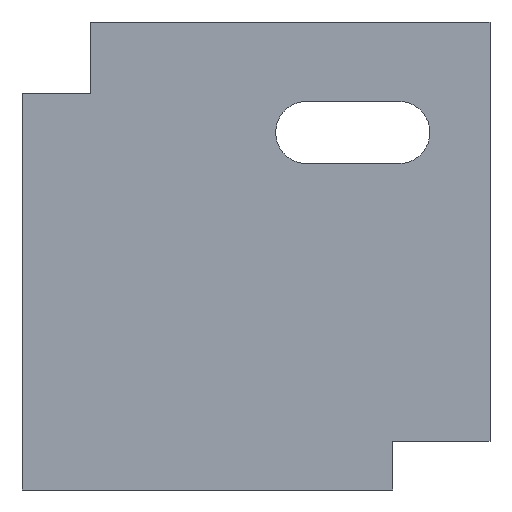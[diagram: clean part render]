
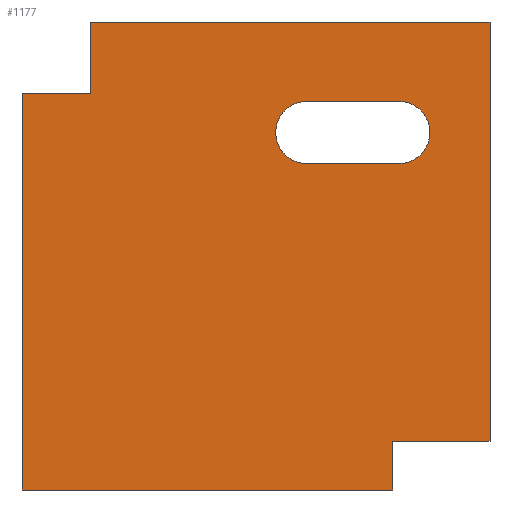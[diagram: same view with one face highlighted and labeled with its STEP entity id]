
A CAD part, left-side view. The second image highlights one B-rep face of the part: STEP entity #1177.
In plain terms, the highlighted planar face has unit normal (-1, 0, 0).
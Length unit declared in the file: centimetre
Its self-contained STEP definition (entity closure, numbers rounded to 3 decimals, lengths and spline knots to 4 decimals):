
#1 = CARTESIAN_POINT ( 'NONE',  ( 0., 194.9182, 697.4305 ) ) ;
#4 = CARTESIAN_POINT ( 'NONE',  ( 0., 391.5719, 830.3705 ) ) ;
#31 = EDGE_CURVE ( 'NONE', #755, #1053, #1128, .T. ) ;
#56 = ORIENTED_EDGE ( 'NONE', *, *, #947, .T. ) ;
#62 = VERTEX_POINT ( 'NONE', #4 ) ;
#66 = VERTEX_POINT ( 'NONE', #1015 ) ;
#73 = ORIENTED_EDGE ( 'NONE', *, *, #122, .T. ) ;
#117 = VERTEX_POINT ( 'NONE', #386 ) ;
#122 = EDGE_CURVE ( 'NONE', #344, #1053, #380, .T. ) ;
#129 = EDGE_CURVE ( 'NONE', #550, #62, #1117, .T. ) ;
#137 = DIRECTION ( 'NONE',  ( -1., 0., 0. ) ) ;
#148 = DIRECTION ( 'NONE',  ( 0., -1., 0. ) ) ;
#149 = VECTOR ( 'NONE', #589, 100. ) ;
#164 = PLANE ( 'NONE',  #572 ) ;
#189 = DIRECTION ( 'NONE',  ( 0., 1., 0. ) ) ;
#192 = VERTEX_POINT ( 'NONE', #234 ) ;
#193 = CARTESIAN_POINT ( 'NONE',  ( 0., 853.5997, 1000. ) ) ;
#195 = VECTOR ( 'NONE', #148, 100. ) ;
#203 = CARTESIAN_POINT ( 'NONE',  ( 0., 207.5137, 104.2977 ) ) ;
#233 = CARTESIAN_POINT ( 'NONE',  ( 0., 0., 104.2977 ) ) ;
#234 = CARTESIAN_POINT ( 'NONE',  ( 0., 0., 1000. ) ) ;
#236 = VECTOR ( 'NONE', #768, 100. ) ;
#246 = EDGE_CURVE ( 'NONE', #192, #622, #1141, .T. ) ;
#262 = CARTESIAN_POINT ( 'NONE',  ( 0., 1000., 1000. ) ) ;
#264 = ORIENTED_EDGE ( 'NONE', *, *, #449, .F. ) ;
#269 = CARTESIAN_POINT ( 'NONE',  ( 0., 207.5137, 104.2977 ) ) ;
#270 = LINE ( 'NONE', #546, #236 ) ;
#280 = DIRECTION ( 'NONE',  ( 1., 0., 0. ) ) ;
#287 = CARTESIAN_POINT ( 'NONE',  ( 0., 1000., 0. ) ) ;
#329 = CARTESIAN_POINT ( 'NONE',  ( 0., 194.9182, 763.9005 ) ) ;
#340 = VECTOR ( 'NONE', #1255, 100. ) ;
#344 = VERTEX_POINT ( 'NONE', #354 ) ;
#346 = EDGE_CURVE ( 'NONE', #783, #192, #888, .T. ) ;
#349 = LINE ( 'NONE', #1178, #195 ) ;
#354 = CARTESIAN_POINT ( 'NONE',  ( 0., 1000., 0. ) ) ;
#365 = VECTOR ( 'NONE', #189, 100. ) ;
#380 = LINE ( 'NONE', #287, #741 ) ;
#386 = CARTESIAN_POINT ( 'NONE',  ( 0., 1000., 847.6469 ) ) ;
#395 = EDGE_CURVE ( 'NONE', #117, #461, #349, .T. ) ;
#398 = ORIENTED_EDGE ( 'NONE', *, *, #246, .F. ) ;
#405 = EDGE_CURVE ( 'NONE', #461, #783, #270, .T. ) ;
#425 = ORIENTED_EDGE ( 'NONE', *, *, #405, .F. ) ;
#449 = EDGE_CURVE ( 'NONE', #62, #66, #863, .T. ) ;
#461 = VERTEX_POINT ( 'NONE', #583 ) ;
#468 = ORIENTED_EDGE ( 'NONE', *, *, #501, .F. ) ;
#473 = CARTESIAN_POINT ( 'NONE',  ( 0., 194.9182, 697.4305 ) ) ;
#501 = EDGE_CURVE ( 'NONE', #66, #1098, #920, .T. ) ;
#514 = VECTOR ( 'NONE', #1277, 100. ) ;
#537 = EDGE_LOOP ( 'NONE', ( #425, #718, #56, #73, #853, #657, #398, #987 ) ) ;
#546 = CARTESIAN_POINT ( 'NONE',  ( 0., 853.5997, 847.6469 ) ) ;
#550 = VERTEX_POINT ( 'NONE', #1139 ) ;
#572 = AXIS2_PLACEMENT_3D ( 'NONE', #1097, #280, #659 ) ;
#578 = EDGE_CURVE ( 'NONE', #1098, #550, #1249, .T. ) ;
#580 = FACE_OUTER_BOUND ( 'NONE', #537, .T. ) ;
#583 = CARTESIAN_POINT ( 'NONE',  ( 0., 853.5997, 847.6469 ) ) ;
#589 = DIRECTION ( 'NONE',  ( 0., -1., 0. ) ) ;
#603 = VECTOR ( 'NONE', #1135, 100. ) ;
#609 = AXIS2_PLACEMENT_3D ( 'NONE', #329, #137, #1054 ) ;
#612 = CARTESIAN_POINT ( 'NONE',  ( 0., 0., 1000. ) ) ;
#622 = VERTEX_POINT ( 'NONE', #233 ) ;
#641 = LINE ( 'NONE', #953, #514 ) ;
#657 = ORIENTED_EDGE ( 'NONE', *, *, #738, .T. ) ;
#659 = DIRECTION ( 'NONE',  ( 0., 0., -1. ) ) ;
#677 = DIRECTION ( 'NONE',  ( 0., -1., 0. ) ) ;
#689 = FACE_BOUND ( 'NONE', #776, .T. ) ;
#696 = DIRECTION ( 'NONE',  ( 0., -1., 0. ) ) ;
#709 = DIRECTION ( 'NONE',  ( -1., 0., 0. ) ) ;
#718 = ORIENTED_EDGE ( 'NONE', *, *, #395, .F. ) ;
#738 = EDGE_CURVE ( 'NONE', #755, #622, #804, .T. ) ;
#741 = VECTOR ( 'NONE', #696, 100. ) ;
#744 = ORIENTED_EDGE ( 'NONE', *, *, #129, .F. ) ;
#753 = CARTESIAN_POINT ( 'NONE',  ( 0., 207.5137, 0. ) ) ;
#755 = VERTEX_POINT ( 'NONE', #269 ) ;
#768 = DIRECTION ( 'NONE',  ( 0., 0., 1. ) ) ;
#773 = VECTOR ( 'NONE', #880, 100. ) ;
#776 = EDGE_LOOP ( 'NONE', ( #744, #1232, #468, #264 ) ) ;
#783 = VERTEX_POINT ( 'NONE', #193 ) ;
#793 = CARTESIAN_POINT ( 'NONE',  ( 0., 391.5719, 763.9005 ) ) ;
#804 = LINE ( 'NONE', #1315, #773 ) ;
#808 = CARTESIAN_POINT ( 'NONE',  ( 0., 391.5719, 830.3705 ) ) ;
#853 = ORIENTED_EDGE ( 'NONE', *, *, #31, .F. ) ;
#863 = CIRCLE ( 'NONE', #924, 66.47 ) ;
#880 = DIRECTION ( 'NONE',  ( 0., -1., 0. ) ) ;
#888 = LINE ( 'NONE', #262, #1206 ) ;
#920 = LINE ( 'NONE', #1, #149 ) ;
#924 = AXIS2_PLACEMENT_3D ( 'NONE', #793, #709, #1110 ) ;
#947 = EDGE_CURVE ( 'NONE', #117, #344, #641, .T. ) ;
#953 = CARTESIAN_POINT ( 'NONE',  ( 0., 1000., 1000. ) ) ;
#987 = ORIENTED_EDGE ( 'NONE', *, *, #346, .F. ) ;
#1015 = CARTESIAN_POINT ( 'NONE',  ( 0., 391.5719, 697.4305 ) ) ;
#1053 = VERTEX_POINT ( 'NONE', #753 ) ;
#1054 = DIRECTION ( 'NONE',  ( 0., 0., -1. ) ) ;
#1097 = CARTESIAN_POINT ( 'NONE',  ( 0., 1000., 1000. ) ) ;
#1098 = VERTEX_POINT ( 'NONE', #473 ) ;
#1110 = DIRECTION ( 'NONE',  ( 0., 0., -1. ) ) ;
#1117 = LINE ( 'NONE', #808, #365 ) ;
#1128 = LINE ( 'NONE', #203, #603 ) ;
#1135 = DIRECTION ( 'NONE',  ( 0., 0., -1. ) ) ;
#1139 = CARTESIAN_POINT ( 'NONE',  ( 0., 194.9182, 830.3705 ) ) ;
#1141 = LINE ( 'NONE', #612, #340 ) ;
#1177 = ADVANCED_FACE ( 'NONE', ( #689, #580 ), #164, .F. ) ;
#1178 = CARTESIAN_POINT ( 'NONE',  ( 0., 853.5997, 847.6469 ) ) ;
#1206 = VECTOR ( 'NONE', #677, 100. ) ;
#1232 = ORIENTED_EDGE ( 'NONE', *, *, #578, .F. ) ;
#1249 = CIRCLE ( 'NONE', #609, 66.47 ) ;
#1255 = DIRECTION ( 'NONE',  ( 0., 0., -1. ) ) ;
#1277 = DIRECTION ( 'NONE',  ( 0., 0., -1. ) ) ;
#1315 = CARTESIAN_POINT ( 'NONE',  ( 0., 207.5137, 104.2977 ) ) ;
